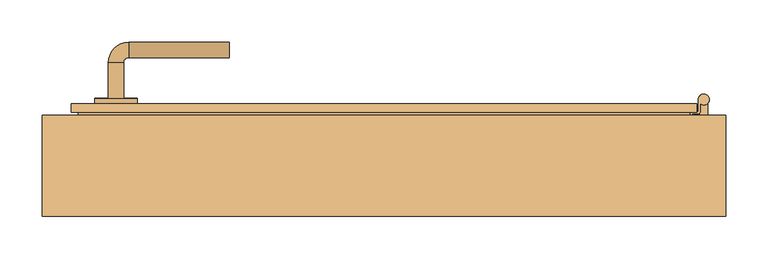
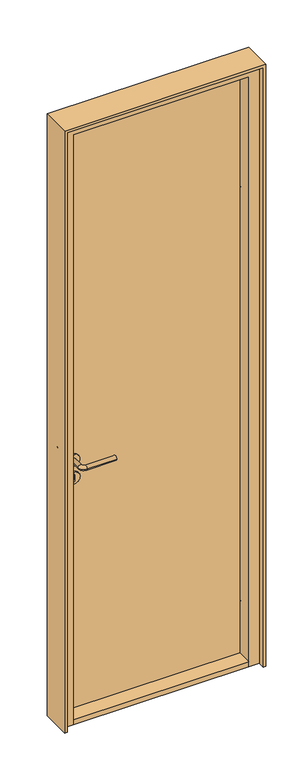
"""IFC4 building model written with IfcOpenShell, lengths in millimetres: door geometry, JW_Interior_Door_Steady_411_Single_1.0 : 790 x 1890 mm - M8 x M19 2 gray."""

from ifc_helpers import new_model, si_unit, point, frame, frame_2d, origin, place, context, project, spatial, polyline, circle_curve, ellipse_curve, trimmed, segment, composite_curve, outline, extrude, faceted_brep, source, transform, mapped, element, save
from ifc_brep_helpers import plane_surface, cylinder_surface, revolved_surface, advanced_brep


def door_3129260d(model_context):
    return source(origin(), model_context, "Body", "SolidModel", [
        advanced_brep(
        [(374.9018538, 73.3783893, 2305.5), (372.404139, 78.4990677, 2305.5), (372.404139, 64.9903905, 2305.5), (371.5949734, 64.1812249, 2305.5), (365.6129452, 64.1812249, 2305.5), (362.4001557, 60.9684354, 2305.5), (361.9114682, 51.6437223, 2305.5), (361.6497884, 46.6505746, 2305.5), (364.1463622, 46.5197347, 2305.5), (364.408042, 51.5128824, 2305.5), (364.9, 60.9, 2305.5), (365.6997148, 61.6997148, 2305.5), (371.7009982, 61.6997148, 2305.5), (374.9018538, 64.9005704, 2305.5), (374.9018538, 73.3783893, 2240.5), (374.9018538, 64.9005704, 2240.5), (371.7009982, 61.6997148, 2240.5), (365.6997148, 61.6997148, 2240.5), (364.9, 60.9, 2240.5), (364.408042, 51.5128824, 2240.5), (364.1463622, 46.5197347, 2240.5), (361.6497884, 46.6505746, 2240.5), (361.9114682, 51.6437223, 2240.5), (362.4001557, 60.9684354, 2240.5), (365.6129452, 64.1812249, 2240.5), (371.5949734, 64.1812249, 2240.5), (372.404139, 64.9903905, 2240.5), (372.404139, 78.4990677, 2240.5), (372.404139, 78.4990677, 2260.0), (374.9018538, 73.3783893, 2260.0), (374.9018538, 73.3783893, 2286.0), (372.404139, 78.4990677, 2286.0), (374.9018538, 64.9005704, 2260.0), (374.9018538, 64.9005704, 2286.0), (371.7009982, 61.6997148, 2260.0), (371.7009982, 61.6997148, 2286.0), (368.9, 61.6997148, 2260.0), (368.9, 61.6997148, 2286.0), (363.6230027, 36.5334394, 2295.5), (363.6230027, 36.5334394, 2250.5), (361.1264288, 36.6642792, 2295.5), (361.1264288, 36.6642792, 2250.5), (371.5949734, 64.1812249, 2286.0), (368.9, 64.1812249, 2286.0), (368.9, 64.1812249, 2260.0), (371.5949734, 64.1812249, 2260.0), (372.404139, 64.9903905, 2260.0), (372.404139, 64.9903905, 2286.0)],
        [
            (0, 1, circle_curve(frame((378.902064, 78.4990677, 2305.5), z_axis=(0.0, 0.0, 1.0), x_axis=(0.0, -1.0, 0.0)), 6.4979249)),
            (1, 2),
            (2, 3, circle_curve(frame((371.5949734, 64.9903905, 2305.5), z_axis=(0.0, 0.0, -1.0), x_axis=(0.0, -1.0, 0.0)), 0.8091657)),
            (3, 4),
            (4, 5, circle_curve(frame((365.6129452, 60.9684354, 2305.5), z_axis=(0.0, 0.0, 1.0), x_axis=(0.0, -1.0, 0.0)), 3.2127895)),
            (5, 6),
            (6, 7),
            (7, 8),
            (8, 9),
            (9, 10),
            (10, 11, circle_curve(frame((365.6997148, 60.9, 2305.5), z_axis=(0.0, 0.0, -1.0), x_axis=(0.0, -1.0, 0.0)), 0.7997148)),
            (11, 12),
            (12, 13, circle_curve(frame((371.7009982, 64.9005704, 2305.5), z_axis=(0.0, 0.0, 1.0), x_axis=(0.0, -1.0, 0.0)), 3.2008556)),
            (13, 0),
            (14, 15),
            (15, 16, circle_curve(frame((371.7009982, 64.9005704, 2240.5), z_axis=(0.0, 0.0, -1.0), x_axis=(0.0, -1.0, 0.0)), 3.2008556)),
            (16, 17),
            (17, 18, circle_curve(frame((365.6997148, 60.9, 2240.5), z_axis=(0.0, 0.0, 1.0), x_axis=(0.0, -1.0, 0.0)), 0.7997148)),
            (18, 19),
            (19, 20),
            (20, 21),
            (21, 22),
            (22, 23),
            (23, 24, circle_curve(frame((365.6129452, 60.9684354, 2240.5), z_axis=(0.0, 0.0, -1.0), x_axis=(0.0, -1.0, 0.0)), 3.2127895)),
            (24, 25),
            (25, 26, circle_curve(frame((371.5949734, 64.9903905, 2240.5), z_axis=(0.0, 0.0, 1.0), x_axis=(0.0, -1.0, 0.0)), 0.8091657)),
            (26, 27),
            (27, 14, circle_curve(frame((378.902064, 78.4990677, 2240.5), z_axis=(0.0, 0.0, -1.0), x_axis=(0.0, -1.0, 0.0)), 6.4979249)),
            (27, 28),
            (28, 29, circle_curve(frame((378.902064, 78.4990677, 2260.0), z_axis=(0.0, 0.0, -1.0), x_axis=(0.0, -1.0, 0.0)), 6.4979249)),
            (29, 14),
            (0, 30),
            (30, 31, circle_curve(frame((378.902064, 78.4990677, 2286.0), z_axis=(0.0, 0.0, 1.0), x_axis=(0.0, -1.0, 0.0)), 6.4979249)),
            (31, 1),
            (29, 32),
            (32, 15),
            (13, 33),
            (33, 30),
            (32, 34, circle_curve(frame((371.7009982, 64.9005704, 2260.0), z_axis=(0.0, 0.0, -1.0), x_axis=(0.0, -1.0, 0.0)), 3.2008556)),
            (34, 16),
            (12, 35),
            (35, 33, circle_curve(frame((371.7009982, 64.9005704, 2286.0), z_axis=(0.0, 0.0, 1.0), x_axis=(0.0, -1.0, 0.0)), 3.2008556)),
            (11, 17),
            (34, 36),
            (36, 37),
            (37, 35),
            (10, 18),
            (8, 38, circle_curve(frame((364.1463622, 46.5197347, 2295.5), z_axis=(0.9986295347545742, -0.05233595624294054, 0.0), x_axis=(0.05233595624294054, 0.9986295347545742, 0.0)), 10.0)),
            (38, 39),
            (39, 20, circle_curve(frame((364.1463622, 46.5197347, 2250.5), z_axis=(0.9986295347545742, -0.05233595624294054, 0.0), x_axis=(0.05233595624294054, 0.9986295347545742, 0.0)), 10.0)),
            (38, 40),
            (40, 41),
            (41, 39),
            (21, 41, circle_curve(frame((361.6497884, 46.6505746, 2250.5), z_axis=(-0.9986295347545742, 0.05233595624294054, 0.0), x_axis=(0.05233595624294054, 0.9986295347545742, 0.0)), 10.0)),
            (40, 7, circle_curve(frame((361.6497884, 46.6505746, 2295.5), z_axis=(-0.9986295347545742, 0.05233595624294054, 0.0), x_axis=(0.05233595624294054, 0.9986295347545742, 0.0)), 10.0)),
            (5, 23),
            (4, 24),
            (3, 42),
            (42, 43),
            (43, 44),
            (44, 45),
            (45, 25),
            (45, 46, circle_curve(frame((371.5949734, 64.9903905, 2260.0), z_axis=(0.0, 0.0, 1.0), x_axis=(0.0, -1.0, 0.0)), 0.8091657)),
            (46, 26),
            (2, 47),
            (47, 42, circle_curve(frame((371.5949734, 64.9903905, 2286.0), z_axis=(0.0, 0.0, -1.0), x_axis=(0.0, -1.0, 0.0)), 0.8091657)),
            (31, 47),
            (46, 28),
            (37, 43),
            (44, 36),
        ],
        [
            plane_surface(frame((374.9018538, 64.9005704, 2305.5), z_axis=(0.0, 0.0, 1.0), x_axis=(0.0, -1.0, 0.0))),
            plane_surface(frame((374.9018538, 64.9005704, 2240.5), z_axis=(0.0, 0.0, -1.0), x_axis=(0.0, 1.0, 0.0))),
            cylinder_surface(frame((378.902064, 78.4990677, 2240.5), z_axis=(0.0, 0.0, 1.0), x_axis=(0.0, -1.0, 0.0)), 6.4979249),
            plane_surface(frame((374.9018538, 73.3783893, 2305.5), z_axis=(1.0, 0.0, 0.0), x_axis=(0.0, 0.0, -1.0))),
            cylinder_surface(frame((371.7009982, 64.9005704, 2240.5), z_axis=(0.0, 0.0, 1.0), x_axis=(0.0, -1.0, 0.0)), 3.2008556),
            plane_surface(frame((371.7009982, 61.6997148, 2305.5), z_axis=(0.0, -1.0, 0.0), x_axis=(0.0, 0.0, -1.0))),
            revolved_surface(polyline([(365.6997148, 60.1002852, 2240.5), (365.6997148, 60.1002852, 2305.5)]), (365.6997148, 60.9, 2240.5), (0.0, 0.0, -1.0)),
            plane_surface(frame((364.9, 60.9, 2305.5), z_axis=(0.9986295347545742, -0.05233595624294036, 0.0), x_axis=(0.0, 0.0, -1.0))),
            plane_surface(frame((363.6230027, 36.5334394, 2305.5), z_axis=(-0.05233595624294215, -0.998629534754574, 0.0), x_axis=(0.0, 0.0, -1.0))),
            plane_surface(frame((361.1264288, 36.6642792, 2305.5), z_axis=(-0.9986295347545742, 0.05233595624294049, 0.0), x_axis=(0.0, 0.0, -1.0))),
            cylinder_surface(frame((365.6129452, 60.9684354, 2240.5), z_axis=(0.0, 0.0, 1.0), x_axis=(0.0, -1.0, 0.0)), 3.2127895),
            plane_surface(frame((365.6129452, 64.1812249, 2305.5), z_axis=(0.0, 1.0, 0.0), x_axis=(0.0, 0.0, -1.0))),
            revolved_surface(polyline([(371.5949734, 64.18122480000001, 2240.5), (371.5949734, 64.18122480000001, 2260.0)]), (371.5949734, 64.9903905, 2240.5), (0.0, 0.0, -1.0)),
            revolved_surface(polyline([(371.5949734, 64.18122480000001, 2286.0), (371.5949734, 64.18122480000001, 2305.5)]), (371.5949734, 64.9903905, 2240.5), (0.0, 0.0, -1.0)),
            plane_surface(frame((372.404139, 64.9903905, 2305.5), z_axis=(-1.0, 0.0, 0.0), x_axis=(0.0, 0.0, -1.0))),
            plane_surface(frame((386.4849846, 88.5564762, 2286.0), z_axis=(0.0, 0.0, -1.0), x_axis=(1.0, 0.0, 0.0))),
            plane_surface(frame((386.4849846, 88.5564762, 2260.0), z_axis=(0.0, 0.0, 1.0), x_axis=(-1.0, 0.0, 0.0))),
            plane_surface(frame((368.9, 58.5564762, 2286.0), z_axis=(1.0, 0.0, 0.0), x_axis=(0.0, 0.0, -1.0))),
            cylinder_surface(frame((369.1395099, 46.2580549, 2250.5), z_axis=(0.9986295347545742, -0.05233595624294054, 0.0), x_axis=(0.05233595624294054, 0.9986295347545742, 0.0)), 10.0),
            cylinder_surface(frame((369.1395099, 46.2580549, 2295.5), z_axis=(0.9986295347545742, -0.05233595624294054, 0.0), x_axis=(0.05233595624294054, 0.9986295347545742, 0.0)), 10.0),
        ],
        [
            (0, [[1, 2, 3, 4, 5, 6, 7, 8, 9, 10, 11, 12, 13, 14]]),
            (1, [[15, 16, 17, 18, 19, 20, 21, 22, 23, 24, 25, 26, 27, 28]]),
            (2, [[29, 30, 31, -28]]),
            (2, [[32, 33, 34, -1]]),
            (3, [[-31, 35, 36, -15]]),
            (3, [[37, 38, -32, -14]]),
            (4, [[-36, 39, 40, -16]]),
            (4, [[41, 42, -37, -13]]),
            (5, [[43, -17, -40, 44, 45, 46, -41, -12]]),
            (6, [[47, -18, -43, -11]]),
            (7, [[-10, -9, 48, 49, 50, -20, -19, -47]]),
            (8, [[51, 52, 53, -49]]),
            (9, [[-23, -22, 54, -52, 55, -7, -6, 56]]),
            (10, [[57, -24, -56, -5]]),
            (11, [[58, 59, 60, 61, 62, -25, -57, -4]]),
            (12, [[-62, 63, 64, -26]]),
            (13, [[65, 66, -58, -3]]),
            (14, [[-34, 67, -65, -2]]),
            (14, [[-64, 68, -29, -27]]),
            (15, [[-59, -66, -67, -33, -38, -42, -46, 69]]),
            (16, [[-44, -39, -35, -30, -68, -63, -61, 70]]),
            (17, [[-45, -70, -60, -69]]),
            (18, [[-50, -53, -54, -21]]),
            (19, [[-55, -51, -48, -8]]),
        ],
    ),
        extrude(outline(composite_curve([segment(trimmed(circle_curve(frame_2d((378.9, 78.5)), 3.75), [point((375.15, 78.5))], [point((382.65, 78.5))], False, "CARTESIAN"), True, "CONTINUOUS"), segment(trimmed(circle_curve(frame_2d((378.9, 78.5)), 3.75), [point((382.65, 78.5))], [point((375.15, 78.5))], False, "CARTESIAN"), True, "CONTINUOUS")], self_intersect=False)), frame((0.0, 0.0, 2240.5), z_axis=(0.0, 0.0, 1.0), x_axis=(1.0, 0.0, 0.0)), (0.0, 0.0, 1.0), 65.0),
        extrude(outline(composite_curve([segment(polyline([(383.9, 74.3466881), (383.9, 60.0), (373.9, 60.0), (373.9, 74.3466881)]), True, "CONTINUOUS"), segment(trimmed(circle_curve(frame_2d((378.9, 78.5)), 6.5), [point((373.9, 74.3466881))], [point((383.9, 74.3466881))], False, "CARTESIAN"), True, "CONTINUOUS")], self_intersect=False)), frame((0.0, 0.0, 2263.0), z_axis=(0.0, 0.0, 1.0), x_axis=(1.0, 0.0, 0.0)), (0.0, 0.0, 1.0), 20.0),
        advanced_brep(
        [(374.9018538, 73.3783893, 2055.5), (372.404139, 78.4990677, 2055.5), (372.404139, 64.9903905, 2055.5), (371.5949734, 64.1812249, 2055.5), (365.6129452, 64.1812249, 2055.5), (362.4001557, 60.9684354, 2055.5), (361.9114682, 51.6437223, 2055.5), (361.6497884, 46.6505746, 2055.5), (364.1463622, 46.5197347, 2055.5), (364.408042, 51.5128824, 2055.5), (364.9, 60.9, 2055.5), (365.6997148, 61.6997148, 2055.5), (371.7009982, 61.6997148, 2055.5), (374.9018538, 64.9005704, 2055.5), (374.9018538, 73.3783893, 1990.5), (374.9018538, 64.9005704, 1990.5), (371.7009982, 61.6997148, 1990.5), (365.6997148, 61.6997148, 1990.5), (364.9, 60.9, 1990.5), (364.408042, 51.5128824, 1990.5), (364.1463622, 46.5197347, 1990.5), (361.6497884, 46.6505746, 1990.5), (361.9114682, 51.6437223, 1990.5), (362.4001557, 60.9684354, 1990.5), (365.6129452, 64.1812249, 1990.5), (371.5949734, 64.1812249, 1990.5), (372.404139, 64.9903905, 1990.5), (372.404139, 78.4990677, 1990.5), (372.404139, 78.4990677, 2010.0), (374.9018538, 73.3783893, 2010.0), (374.9018538, 73.3783893, 2036.0), (372.404139, 78.4990677, 2036.0), (374.9018538, 64.9005704, 2010.0), (374.9018538, 64.9005704, 2036.0), (371.7009982, 61.6997148, 2010.0), (371.7009982, 61.6997148, 2036.0), (368.9, 61.6997148, 2010.0), (368.9, 61.6997148, 2036.0), (363.6230027, 36.5334394, 2045.5), (363.6230027, 36.5334394, 2000.5), (361.1264288, 36.6642792, 2045.5), (361.1264288, 36.6642792, 2000.5), (371.5949734, 64.1812249, 2036.0), (368.9, 64.1812249, 2036.0), (368.9, 64.1812249, 2010.0), (371.5949734, 64.1812249, 2010.0), (372.404139, 64.9903905, 2010.0), (372.404139, 64.9903905, 2036.0)],
        [
            (0, 1, circle_curve(frame((378.902064, 78.4990677, 2055.5), z_axis=(0.0, 0.0, 1.0), x_axis=(0.0, -1.0, 0.0)), 6.4979249)),
            (1, 2),
            (2, 3, circle_curve(frame((371.5949734, 64.9903905, 2055.5), z_axis=(0.0, 0.0, -1.0), x_axis=(0.0, -1.0, 0.0)), 0.8091657)),
            (3, 4),
            (4, 5, circle_curve(frame((365.6129452, 60.9684354, 2055.5), z_axis=(0.0, 0.0, 1.0), x_axis=(0.0, -1.0, 0.0)), 3.2127895)),
            (5, 6),
            (6, 7),
            (7, 8),
            (8, 9),
            (9, 10),
            (10, 11, circle_curve(frame((365.6997148, 60.9, 2055.5), z_axis=(0.0, 0.0, -1.0), x_axis=(0.0, -1.0, 0.0)), 0.7997148)),
            (11, 12),
            (12, 13, circle_curve(frame((371.7009982, 64.9005704, 2055.5), z_axis=(0.0, 0.0, 1.0), x_axis=(0.0, -1.0, 0.0)), 3.2008556)),
            (13, 0),
            (14, 15),
            (15, 16, circle_curve(frame((371.7009982, 64.9005704, 1990.5), z_axis=(0.0, 0.0, -1.0), x_axis=(0.0, -1.0, 0.0)), 3.2008556)),
            (16, 17),
            (17, 18, circle_curve(frame((365.6997148, 60.9, 1990.5), z_axis=(0.0, 0.0, 1.0), x_axis=(0.0, -1.0, 0.0)), 0.7997148)),
            (18, 19),
            (19, 20),
            (20, 21),
            (21, 22),
            (22, 23),
            (23, 24, circle_curve(frame((365.6129452, 60.9684354, 1990.5), z_axis=(0.0, 0.0, -1.0), x_axis=(0.0, -1.0, 0.0)), 3.2127895)),
            (24, 25),
            (25, 26, circle_curve(frame((371.5949734, 64.9903905, 1990.5), z_axis=(0.0, 0.0, 1.0), x_axis=(0.0, -1.0, 0.0)), 0.8091657)),
            (26, 27),
            (27, 14, circle_curve(frame((378.902064, 78.4990677, 1990.5), z_axis=(0.0, 0.0, -1.0), x_axis=(0.0, -1.0, 0.0)), 6.4979249)),
            (27, 28),
            (28, 29, circle_curve(frame((378.902064, 78.4990677, 2010.0), z_axis=(0.0, 0.0, -1.0), x_axis=(0.0, -1.0, 0.0)), 6.4979249)),
            (29, 14),
            (0, 30),
            (30, 31, circle_curve(frame((378.902064, 78.4990677, 2036.0), z_axis=(0.0, 0.0, 1.0), x_axis=(0.0, -1.0, 0.0)), 6.4979249)),
            (31, 1),
            (29, 32),
            (32, 15),
            (13, 33),
            (33, 30),
            (32, 34, circle_curve(frame((371.7009982, 64.9005704, 2010.0), z_axis=(0.0, 0.0, -1.0), x_axis=(0.0, -1.0, 0.0)), 3.2008556)),
            (34, 16),
            (12, 35),
            (35, 33, circle_curve(frame((371.7009982, 64.9005704, 2036.0), z_axis=(0.0, 0.0, 1.0), x_axis=(0.0, -1.0, 0.0)), 3.2008556)),
            (11, 17),
            (34, 36),
            (36, 37),
            (37, 35),
            (10, 18),
            (8, 38, circle_curve(frame((364.1463622, 46.5197347, 2045.5), z_axis=(0.9986295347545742, -0.05233595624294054, 0.0), x_axis=(0.05233595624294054, 0.9986295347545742, 0.0)), 10.0)),
            (38, 39),
            (39, 20, circle_curve(frame((364.1463622, 46.5197347, 2000.5), z_axis=(0.9986295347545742, -0.05233595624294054, 0.0), x_axis=(0.05233595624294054, 0.9986295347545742, 0.0)), 10.0)),
            (38, 40),
            (40, 41),
            (41, 39),
            (21, 41, circle_curve(frame((361.6497884, 46.6505746, 2000.5), z_axis=(-0.9986295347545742, 0.05233595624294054, 0.0), x_axis=(0.05233595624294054, 0.9986295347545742, 0.0)), 10.0)),
            (40, 7, circle_curve(frame((361.6497884, 46.6505746, 2045.5), z_axis=(-0.9986295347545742, 0.05233595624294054, 0.0), x_axis=(0.05233595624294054, 0.9986295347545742, 0.0)), 10.0)),
            (5, 23),
            (4, 24),
            (3, 42),
            (42, 43),
            (43, 44),
            (44, 45),
            (45, 25),
            (45, 46, circle_curve(frame((371.5949734, 64.9903905, 2010.0), z_axis=(0.0, 0.0, 1.0), x_axis=(0.0, -1.0, 0.0)), 0.8091657)),
            (46, 26),
            (2, 47),
            (47, 42, circle_curve(frame((371.5949734, 64.9903905, 2036.0), z_axis=(0.0, 0.0, -1.0), x_axis=(0.0, -1.0, 0.0)), 0.8091657)),
            (31, 47),
            (46, 28),
            (37, 43),
            (44, 36),
        ],
        [
            plane_surface(frame((374.9018538, 64.9005704, 2055.5), z_axis=(0.0, 0.0, 1.0), x_axis=(0.0, -1.0, 0.0))),
            plane_surface(frame((374.9018538, 64.9005704, 1990.5), z_axis=(0.0, 0.0, -1.0), x_axis=(0.0, 1.0, 0.0))),
            cylinder_surface(frame((378.902064, 78.4990677, 1990.5), z_axis=(0.0, 0.0, 1.0), x_axis=(0.0, -1.0, 0.0)), 6.4979249),
            plane_surface(frame((374.9018538, 73.3783893, 2055.5), z_axis=(1.0, 0.0, 0.0), x_axis=(0.0, 0.0, -1.0))),
            cylinder_surface(frame((371.7009982, 64.9005704, 1990.5), z_axis=(0.0, 0.0, 1.0), x_axis=(0.0, -1.0, 0.0)), 3.2008556),
            plane_surface(frame((371.7009982, 61.6997148, 2055.5), z_axis=(0.0, -1.0, 0.0), x_axis=(0.0, 0.0, -1.0))),
            revolved_surface(polyline([(365.6997148, 60.1002852, 1990.5), (365.6997148, 60.1002852, 2055.5)]), (365.6997148, 60.9, 1990.5), (0.0, 0.0, -1.0)),
            plane_surface(frame((364.9, 60.9, 2055.5), z_axis=(0.9986295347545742, -0.05233595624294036, 0.0), x_axis=(0.0, 0.0, -1.0))),
            plane_surface(frame((363.6230027, 36.5334394, 2055.5), z_axis=(-0.05233595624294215, -0.998629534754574, 0.0), x_axis=(0.0, 0.0, -1.0))),
            plane_surface(frame((361.1264288, 36.6642792, 2055.5), z_axis=(-0.9986295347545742, 0.05233595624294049, 0.0), x_axis=(0.0, 0.0, -1.0))),
            cylinder_surface(frame((365.6129452, 60.9684354, 1990.5), z_axis=(0.0, 0.0, 1.0), x_axis=(0.0, -1.0, 0.0)), 3.2127895),
            plane_surface(frame((365.6129452, 64.1812249, 2055.5), z_axis=(0.0, 1.0, 0.0), x_axis=(0.0, 0.0, -1.0))),
            revolved_surface(polyline([(371.5949734, 64.18122480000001, 1990.5), (371.5949734, 64.18122480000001, 2010.0)]), (371.5949734, 64.9903905, 1990.5), (0.0, 0.0, -1.0)),
            revolved_surface(polyline([(371.5949734, 64.18122480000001, 2036.0), (371.5949734, 64.18122480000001, 2055.5)]), (371.5949734, 64.9903905, 1990.5), (0.0, 0.0, -1.0)),
            plane_surface(frame((372.404139, 64.9903905, 2055.5), z_axis=(-1.0, 0.0, 0.0), x_axis=(0.0, 0.0, -1.0))),
            plane_surface(frame((386.4849846, 88.5564762, 2036.0), z_axis=(0.0, 0.0, -1.0), x_axis=(1.0, 0.0, 0.0))),
            plane_surface(frame((386.4849846, 88.5564762, 2010.0), z_axis=(0.0, 0.0, 1.0), x_axis=(-1.0, 0.0, 0.0))),
            plane_surface(frame((368.9, 58.5564762, 2036.0), z_axis=(1.0, 0.0, 0.0), x_axis=(0.0, 0.0, -1.0))),
            cylinder_surface(frame((369.1395099, 46.2580549, 2000.5), z_axis=(0.9986295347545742, -0.05233595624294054, 0.0), x_axis=(0.05233595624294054, 0.9986295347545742, 0.0)), 10.0),
            cylinder_surface(frame((369.1395099, 46.2580549, 2045.5), z_axis=(0.9986295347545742, -0.05233595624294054, 0.0), x_axis=(0.05233595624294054, 0.9986295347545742, 0.0)), 10.0),
        ],
        [
            (0, [[1, 2, 3, 4, 5, 6, 7, 8, 9, 10, 11, 12, 13, 14]]),
            (1, [[15, 16, 17, 18, 19, 20, 21, 22, 23, 24, 25, 26, 27, 28]]),
            (2, [[29, 30, 31, -28]]),
            (2, [[32, 33, 34, -1]]),
            (3, [[-31, 35, 36, -15]]),
            (3, [[37, 38, -32, -14]]),
            (4, [[-36, 39, 40, -16]]),
            (4, [[41, 42, -37, -13]]),
            (5, [[43, -17, -40, 44, 45, 46, -41, -12]]),
            (6, [[47, -18, -43, -11]]),
            (7, [[-10, -9, 48, 49, 50, -20, -19, -47]]),
            (8, [[51, 52, 53, -49]]),
            (9, [[-23, -22, 54, -52, 55, -7, -6, 56]]),
            (10, [[57, -24, -56, -5]]),
            (11, [[58, 59, 60, 61, 62, -25, -57, -4]]),
            (12, [[-62, 63, 64, -26]]),
            (13, [[65, 66, -58, -3]]),
            (14, [[-34, 67, -65, -2]]),
            (14, [[-64, 68, -29, -27]]),
            (15, [[-59, -66, -67, -33, -38, -42, -46, 69]]),
            (16, [[-44, -39, -35, -30, -68, -63, -61, 70]]),
            (17, [[-45, -70, -60, -69]]),
            (18, [[-50, -53, -54, -21]]),
            (19, [[-55, -51, -48, -8]]),
        ],
    ),
        extrude(outline(composite_curve([segment(trimmed(circle_curve(frame_2d((378.9, 78.5)), 3.75), [point((375.15, 78.5))], [point((382.65, 78.5))], False, "CARTESIAN"), True, "CONTINUOUS"), segment(trimmed(circle_curve(frame_2d((378.9, 78.5)), 3.75), [point((382.65, 78.5))], [point((375.15, 78.5))], False, "CARTESIAN"), True, "CONTINUOUS")], self_intersect=False)), frame((0.0, 0.0, 1990.5), z_axis=(0.0, 0.0, 1.0), x_axis=(1.0, 0.0, 0.0)), (0.0, 0.0, 1.0), 65.0),
        extrude(outline(composite_curve([segment(polyline([(383.9, 74.3466881), (383.9, 60.0), (373.9, 60.0), (373.9, 74.3466881)]), True, "CONTINUOUS"), segment(trimmed(circle_curve(frame_2d((378.9, 78.5)), 6.5), [point((373.9, 74.3466881))], [point((383.9, 74.3466881))], False, "CARTESIAN"), True, "CONTINUOUS")], self_intersect=False)), frame((0.0, 0.0, 2013.0), z_axis=(0.0, 0.0, 1.0), x_axis=(1.0, 0.0, 0.0)), (0.0, 0.0, 1.0), 20.0),
        advanced_brep(
        [(374.9018538, 73.3783893, 295.5), (372.404139, 78.4990677, 295.5), (372.404139, 64.9903905, 295.5), (371.5949734, 64.1812249, 295.5), (365.6129452, 64.1812249, 295.5), (362.4001557, 60.9684354, 295.5), (361.9114682, 51.6437223, 295.5), (361.6497884, 46.6505746, 295.5), (364.1463622, 46.5197347, 295.5), (364.408042, 51.5128824, 295.5), (364.9, 60.9, 295.5), (365.6997148, 61.6997148, 295.5), (371.7009982, 61.6997148, 295.5), (374.9018538, 64.9005704, 295.5), (374.9018538, 73.3783893, 230.5), (374.9018538, 64.9005704, 230.5), (371.7009982, 61.6997148, 230.5), (365.6997148, 61.6997148, 230.5), (364.9, 60.9, 230.5), (364.408042, 51.5128824, 230.5), (364.1463622, 46.5197347, 230.5), (361.6497884, 46.6505746, 230.5), (361.9114682, 51.6437223, 230.5), (362.4001557, 60.9684354, 230.5), (365.6129452, 64.1812249, 230.5), (371.5949734, 64.1812249, 230.5), (372.404139, 64.9903905, 230.5), (372.404139, 78.4990677, 230.5), (372.404139, 78.4990677, 250.0), (374.9018538, 73.3783893, 250.0), (374.9018538, 73.3783893, 276.0), (372.404139, 78.4990677, 276.0), (374.9018538, 64.9005704, 250.0), (374.9018538, 64.9005704, 276.0), (371.7009982, 61.6997148, 250.0), (371.7009982, 61.6997148, 276.0), (368.9, 61.6997148, 250.0), (368.9, 61.6997148, 276.0), (363.6230027, 36.5334394, 285.5), (363.6230027, 36.5334394, 240.5), (361.1264288, 36.6642792, 285.5), (361.1264288, 36.6642792, 240.5), (371.5949734, 64.1812249, 276.0), (368.9, 64.1812249, 276.0), (368.9, 64.1812249, 250.0), (371.5949734, 64.1812249, 250.0), (372.404139, 64.9903905, 250.0), (372.404139, 64.9903905, 276.0)],
        [
            (0, 1, circle_curve(frame((378.902064, 78.4990677, 295.5), z_axis=(0.0, 0.0, 1.0), x_axis=(0.0, -1.0, 0.0)), 6.4979249)),
            (1, 2),
            (2, 3, circle_curve(frame((371.5949734, 64.9903905, 295.5), z_axis=(0.0, 0.0, -1.0), x_axis=(0.0, -1.0, 0.0)), 0.8091657)),
            (3, 4),
            (4, 5, circle_curve(frame((365.6129452, 60.9684354, 295.5), z_axis=(0.0, 0.0, 1.0), x_axis=(0.0, -1.0, 0.0)), 3.2127895)),
            (5, 6),
            (6, 7),
            (7, 8),
            (8, 9),
            (9, 10),
            (10, 11, circle_curve(frame((365.6997148, 60.9, 295.5), z_axis=(0.0, 0.0, -1.0), x_axis=(0.0, -1.0, 0.0)), 0.7997148)),
            (11, 12),
            (12, 13, circle_curve(frame((371.7009982, 64.9005704, 295.5), z_axis=(0.0, 0.0, 1.0), x_axis=(0.0, -1.0, 0.0)), 3.2008556)),
            (13, 0),
            (14, 15),
            (15, 16, circle_curve(frame((371.7009982, 64.9005704, 230.5), z_axis=(0.0, 0.0, -1.0), x_axis=(0.0, -1.0, 0.0)), 3.2008556)),
            (16, 17),
            (17, 18, circle_curve(frame((365.6997148, 60.9, 230.5), z_axis=(0.0, 0.0, 1.0), x_axis=(0.0, -1.0, 0.0)), 0.7997148)),
            (18, 19),
            (19, 20),
            (20, 21),
            (21, 22),
            (22, 23),
            (23, 24, circle_curve(frame((365.6129452, 60.9684354, 230.5), z_axis=(0.0, 0.0, -1.0), x_axis=(0.0, -1.0, 0.0)), 3.2127895)),
            (24, 25),
            (25, 26, circle_curve(frame((371.5949734, 64.9903905, 230.5), z_axis=(0.0, 0.0, 1.0), x_axis=(0.0, -1.0, 0.0)), 0.8091657)),
            (26, 27),
            (27, 14, circle_curve(frame((378.902064, 78.4990677, 230.5), z_axis=(0.0, 0.0, -1.0), x_axis=(0.0, -1.0, 0.0)), 6.4979249)),
            (27, 28),
            (28, 29, circle_curve(frame((378.902064, 78.4990677, 250.0), z_axis=(0.0, 0.0, -1.0), x_axis=(0.0, -1.0, 0.0)), 6.4979249)),
            (29, 14),
            (0, 30),
            (30, 31, circle_curve(frame((378.902064, 78.4990677, 276.0), z_axis=(0.0, 0.0, 1.0), x_axis=(0.0, -1.0, 0.0)), 6.4979249)),
            (31, 1),
            (29, 32),
            (32, 15),
            (13, 33),
            (33, 30),
            (32, 34, circle_curve(frame((371.7009982, 64.9005704, 250.0), z_axis=(0.0, 0.0, -1.0), x_axis=(0.0, -1.0, 0.0)), 3.2008556)),
            (34, 16),
            (12, 35),
            (35, 33, circle_curve(frame((371.7009982, 64.9005704, 276.0), z_axis=(0.0, 0.0, 1.0), x_axis=(0.0, -1.0, 0.0)), 3.2008556)),
            (11, 17),
            (34, 36),
            (36, 37),
            (37, 35),
            (10, 18),
            (8, 38, circle_curve(frame((364.1463622, 46.5197347, 285.5), z_axis=(0.9986295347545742, -0.05233595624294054, 0.0), x_axis=(0.05233595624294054, 0.9986295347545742, 0.0)), 10.0)),
            (38, 39),
            (39, 20, circle_curve(frame((364.1463622, 46.5197347, 240.5), z_axis=(0.9986295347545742, -0.05233595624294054, 0.0), x_axis=(0.05233595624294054, 0.9986295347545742, 0.0)), 10.0)),
            (38, 40),
            (40, 41),
            (41, 39),
            (21, 41, circle_curve(frame((361.6497884, 46.6505746, 240.5), z_axis=(-0.9986295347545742, 0.05233595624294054, 0.0), x_axis=(0.05233595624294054, 0.9986295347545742, 0.0)), 10.0)),
            (40, 7, circle_curve(frame((361.6497884, 46.6505746, 285.5), z_axis=(-0.9986295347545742, 0.05233595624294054, 0.0), x_axis=(0.05233595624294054, 0.9986295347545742, 0.0)), 10.0)),
            (5, 23),
            (4, 24),
            (3, 42),
            (42, 43),
            (43, 44),
            (44, 45),
            (45, 25),
            (45, 46, circle_curve(frame((371.5949734, 64.9903905, 250.0), z_axis=(0.0, 0.0, 1.0), x_axis=(0.0, -1.0, 0.0)), 0.8091657)),
            (46, 26),
            (2, 47),
            (47, 42, circle_curve(frame((371.5949734, 64.9903905, 276.0), z_axis=(0.0, 0.0, -1.0), x_axis=(0.0, -1.0, 0.0)), 0.8091657)),
            (31, 47),
            (46, 28),
            (37, 43),
            (44, 36),
        ],
        [
            plane_surface(frame((374.9018538, 64.9005704, 295.5), z_axis=(0.0, 0.0, 1.0), x_axis=(0.0, -1.0, 0.0))),
            plane_surface(frame((374.9018538, 64.9005704, 230.5), z_axis=(0.0, 0.0, -1.0), x_axis=(0.0, 1.0, 0.0))),
            cylinder_surface(frame((378.902064, 78.4990677, 230.5), z_axis=(0.0, 0.0, 1.0), x_axis=(0.0, -1.0, 0.0)), 6.4979249),
            plane_surface(frame((374.9018538, 73.3783893, 295.5), z_axis=(1.0, 0.0, 0.0), x_axis=(0.0, 0.0, -1.0))),
            cylinder_surface(frame((371.7009982, 64.9005704, 230.5), z_axis=(0.0, 0.0, 1.0), x_axis=(0.0, -1.0, 0.0)), 3.2008556),
            plane_surface(frame((371.7009982, 61.6997148, 295.5), z_axis=(0.0, -1.0, 0.0), x_axis=(0.0, 0.0, -1.0))),
            revolved_surface(polyline([(365.6997148, 60.1002852, 230.5), (365.6997148, 60.1002852, 295.5)]), (365.6997148, 60.9, 230.5), (0.0, 0.0, -1.0)),
            plane_surface(frame((364.9, 60.9, 295.5), z_axis=(0.9986295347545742, -0.05233595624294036, 0.0), x_axis=(0.0, 0.0, -1.0))),
            plane_surface(frame((363.6230027, 36.5334394, 295.5), z_axis=(-0.05233595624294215, -0.998629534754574, 0.0), x_axis=(0.0, 0.0, -1.0))),
            plane_surface(frame((361.1264288, 36.6642792, 295.5), z_axis=(-0.9986295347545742, 0.05233595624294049, 0.0), x_axis=(0.0, 0.0, -1.0))),
            cylinder_surface(frame((365.6129452, 60.9684354, 230.5), z_axis=(0.0, 0.0, 1.0), x_axis=(0.0, -1.0, 0.0)), 3.2127895),
            plane_surface(frame((365.6129452, 64.1812249, 295.5), z_axis=(0.0, 1.0, 0.0), x_axis=(0.0, 0.0, -1.0))),
            revolved_surface(polyline([(371.5949734, 64.18122480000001, 230.5), (371.5949734, 64.18122480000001, 250.0)]), (371.5949734, 64.9903905, 230.5), (0.0, 0.0, -1.0)),
            revolved_surface(polyline([(371.5949734, 64.18122480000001, 276.0), (371.5949734, 64.18122480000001, 295.5)]), (371.5949734, 64.9903905, 230.5), (0.0, 0.0, -1.0)),
            plane_surface(frame((372.404139, 64.9903905, 295.5), z_axis=(-1.0, 0.0, 0.0), x_axis=(0.0, 0.0, -1.0))),
            plane_surface(frame((386.4849846, 88.5564762, 276.0), z_axis=(0.0, 0.0, -1.0), x_axis=(1.0, 0.0, 0.0))),
            plane_surface(frame((386.4849846, 88.5564762, 250.0), z_axis=(0.0, 0.0, 1.0), x_axis=(-1.0, 0.0, 0.0))),
            plane_surface(frame((368.9, 58.5564762, 276.0), z_axis=(1.0, 0.0, 0.0), x_axis=(0.0, 0.0, -1.0))),
            cylinder_surface(frame((369.1395099, 46.2580549, 240.5), z_axis=(0.9986295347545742, -0.05233595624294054, 0.0), x_axis=(0.05233595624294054, 0.9986295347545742, 0.0)), 10.0),
            cylinder_surface(frame((369.1395099, 46.2580549, 285.5), z_axis=(0.9986295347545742, -0.05233595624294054, 0.0), x_axis=(0.05233595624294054, 0.9986295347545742, 0.0)), 10.0),
        ],
        [
            (0, [[1, 2, 3, 4, 5, 6, 7, 8, 9, 10, 11, 12, 13, 14]]),
            (1, [[15, 16, 17, 18, 19, 20, 21, 22, 23, 24, 25, 26, 27, 28]]),
            (2, [[29, 30, 31, -28]]),
            (2, [[32, 33, 34, -1]]),
            (3, [[-31, 35, 36, -15]]),
            (3, [[37, 38, -32, -14]]),
            (4, [[-36, 39, 40, -16]]),
            (4, [[41, 42, -37, -13]]),
            (5, [[43, -17, -40, 44, 45, 46, -41, -12]]),
            (6, [[47, -18, -43, -11]]),
            (7, [[-10, -9, 48, 49, 50, -20, -19, -47]]),
            (8, [[51, 52, 53, -49]]),
            (9, [[-23, -22, 54, -52, 55, -7, -6, 56]]),
            (10, [[57, -24, -56, -5]]),
            (11, [[58, 59, 60, 61, 62, -25, -57, -4]]),
            (12, [[-62, 63, 64, -26]]),
            (13, [[65, 66, -58, -3]]),
            (14, [[-34, 67, -65, -2]]),
            (14, [[-64, 68, -29, -27]]),
            (15, [[-59, -66, -67, -33, -38, -42, -46, 69]]),
            (16, [[-44, -39, -35, -30, -68, -63, -61, 70]]),
            (17, [[-45, -70, -60, -69]]),
            (18, [[-50, -53, -54, -21]]),
            (19, [[-55, -51, -48, -8]]),
        ],
    ),
        extrude(outline(composite_curve([segment(trimmed(circle_curve(frame_2d((378.9, 78.5)), 3.75), [point((375.15, 78.5))], [point((382.65, 78.5))], False, "CARTESIAN"), True, "CONTINUOUS"), segment(trimmed(circle_curve(frame_2d((378.9, 78.5)), 3.75), [point((382.65, 78.5))], [point((375.15, 78.5))], False, "CARTESIAN"), True, "CONTINUOUS")], self_intersect=False)), frame((0.0, 0.0, 230.5), z_axis=(0.0, 0.0, 1.0), x_axis=(1.0, 0.0, 0.0)), (0.0, 0.0, 1.0), 65.0),
        extrude(outline(composite_curve([segment(polyline([(383.9, 74.3466881), (383.9, 60.0), (373.9, 60.0), (373.9, 74.3466881)]), True, "CONTINUOUS"), segment(trimmed(circle_curve(frame_2d((378.9, 78.5)), 6.5), [point((373.9, 74.3466881))], [point((383.9, 74.3466881))], False, "CARTESIAN"), True, "CONTINUOUS")], self_intersect=False)), frame((0.0, 0.0, 253.0), z_axis=(0.0, 0.0, 1.0), x_axis=(1.0, 0.0, 0.0)), (0.0, 0.0, 1.0), 20.0),
        faceted_brep([(-395.0, -32.0, 0.0), (-395.0, 60.0, 0.0), (-365.0, 60.0, 0.0), (-365.0, 30.0, 0.0), (-353.0, 30.0, 0.0), (-353.0, -32.0, 0.0), (-395.0, -32.0, 2550.0), (-395.0, 60.0, 2550.0), (395.0, 60.0, 2550.0), (395.0, 60.0, 0.0), (365.0, 60.0, 0.0), (365.0, 60.0, 2520.0), (-365.0, 60.0, 2520.0), (-365.0, 30.0, 2520.0), (365.0, 30.0, 2520.0), (365.0, 30.0, 0.0), (353.0, 30.0, 0.0), (353.0, 30.0, 2508.0), (-353.0, 30.0, 2508.0), (-353.0, -32.0, 2508.0), (353.0, -32.0, 2508.0), (353.0, -32.0, 0.0), (395.0, -32.0, 0.0), (395.0, -32.0, 2550.0)], [[[0, 1, 2, 3, 4, 5]], [[1, 0, 6, 7]], [[2, 1, 7, 8, 9, 10, 11, 12]], [[3, 2, 12, 13]], [[4, 3, 13, 14, 15, 16, 17, 18]], [[5, 4, 18, 19]], [[0, 5, 19, 20, 21, 22, 23, 6]], [[8, 23, 22, 9]], [[22, 21, 16, 15, 10, 9]], [[14, 11, 10, 15]], [[20, 17, 16, 21]], [[7, 6, 23, 8]], [[13, 12, 11, 14]], [[19, 18, 17, 20]]]),
        faceted_brep([(365.0, 60.0, 0.0), (365.0, 60.0, 15.0), (365.0, 30.0, 15.0), (365.0, 30.0, 0.0), (-365.0, 30.0, 15.0), (-365.0, 60.0, 15.0), (-365.0, 60.0, 0.0), (-365.0, 30.0, 0.0), (353.0, 30.0, 0.0), (353.0, -32.0, 0.0), (-353.0, -32.0, 0.0), (-353.0, 30.0, 0.0), (-353.0, 30.0, 15.0), (353.0, 30.0, 15.0), (-353.0, 30.0, 22.0), (353.0, 30.0, 22.0), (-353.0, -32.0, 22.0), (353.0, -32.0, 22.0)], [[[0, 1, 2, 3]], [[4, 5, 6, 7]], [[6, 0, 3, 8, 9, 10, 11, 7]], [[1, 0, 6, 5]], [[2, 1, 5, 4, 12, 13]], [[13, 12, 14, 15]], [[15, 14, 16, 17]], [[10, 9, 17, 16]], [[11, 12, 4, 7]], [[12, 11, 10, 16, 14]], [[8, 13, 15, 17, 9]], [[13, 8, 3, 2]]]),
        extrude(outline(composite_curve([segment(trimmed(circle_curve(frame_2d((1001.0, -317.5)), 25.0), [point((1001.0, -292.5))], [point((1001.0, -342.5))], False, "CARTESIAN"), True, "CONTINUOUS"), segment(trimmed(circle_curve(frame_2d((1001.0, -317.5)), 25.0), [point((1001.0, -342.5))], [point((1001.0, -292.5))], False, "CARTESIAN"), True, "CONTINUOUS")], self_intersect=False), holes=[composite_curve([segment(trimmed(circle_curve(frame_2d((1012.243411, -317.5)), 4.0), [point((1012.243411, -321.5))], [point((1012.243411, -313.5))], True, "CARTESIAN"), True, "CONTINUOUS"), segment(polyline([(1012.243411, -313.5), (989.756589, -313.5)]), True, "CONTINUOUS"), segment(trimmed(circle_curve(frame_2d((989.756589, -317.5)), 4.0), [point((989.756589, -313.5))], [point((989.756589, -321.5))], True, "CARTESIAN"), True, "CONTINUOUS"), segment(polyline([(989.756589, -321.5), (1012.243411, -321.5)]), True, "CONTINUOUS")], self_intersect=False)]), frame((0.0, 26.5, 0.0), z_axis=(0.0, 1.0, 0.0), x_axis=(0.0, 0.0, 1.0)), (0.0, 0.0, 1.0), 7.0),
        extrude(outline(composite_curve([segment(trimmed(circle_curve(frame_2d((1001.0, -317.5)), 25.0), [point((1001.0, -292.5))], [point((1001.0, -342.5))], False, "CARTESIAN"), True, "CONTINUOUS"), segment(trimmed(circle_curve(frame_2d((1001.0, -317.5)), 25.0), [point((1001.0, -342.5))], [point((1001.0, -292.5))], False, "CARTESIAN"), True, "CONTINUOUS")], self_intersect=False), holes=[composite_curve([segment(polyline([(989.756589, -321.5), (1012.243411, -321.5)]), True, "CONTINUOUS"), segment(trimmed(circle_curve(frame_2d((1012.243411, -317.5)), 4.0), [point((1012.243411, -321.5))], [point((1012.243411, -313.5))], True, "CARTESIAN"), True, "CONTINUOUS"), segment(polyline([(1012.243411, -313.5), (989.756589, -313.5)]), True, "CONTINUOUS"), segment(trimmed(circle_curve(frame_2d((989.756589, -317.5)), 4.0), [point((989.756589, -313.5))], [point((989.756589, -321.5))], True, "CARTESIAN"), True, "CONTINUOUS")], self_intersect=False)]), frame((0.0, 73.5, 0.0), z_axis=(0.0, 1.0, 0.0), x_axis=(0.0, 0.0, 1.0)), (0.0, 0.0, 1.0), 7.0),
        advanced_brep(
        [(-342.5, 27.5, 1075.0), (-292.5, 27.5, 1075.0), (-308.5346073, 27.5, 1075.0), (-326.4653927, 27.5, 1075.0), (-342.5, 33.5, 1075.0), (-292.5, 33.5, 1075.0), (-326.4653927, -15.4627146, 1075.0), (-308.5346073, -15.4627146, 1075.0), (-302.5, -39.4281073, 1075.0), (-302.5, -21.4973219, 1075.0), (-183.5, -21.4973219, 1075.0), (-183.5, -39.4281073, 1075.0)],
        [
            (0, 1, circle_curve(frame((-317.5, 27.5, 1075.0), z_axis=(0.0, -1.0, 0.0), x_axis=(1.0, 0.0, 0.0)), 25.0)),
            (1, 0, circle_curve(frame((-317.5, 27.5, 1075.0), z_axis=(0.0, -1.0, 0.0), x_axis=(1.0, 0.0, 0.0)), 25.0)),
            (2, 3, circle_curve(frame((-317.5, 27.5, 1075.0), z_axis=(0.0, 1.0, 0.0), x_axis=(-1.0, 0.0, 0.0)), 8.9653927)),
            (3, 2, circle_curve(frame((-317.5, 27.5, 1075.0), z_axis=(0.0, 1.0, 0.0), x_axis=(-1.0, 0.0, 0.0)), 8.9653927)),
            (4, 5, circle_curve(frame((-317.5, 33.5, 1075.0), z_axis=(0.0, 1.0, 0.0), x_axis=(1.0, 0.0, 0.0)), 25.0)),
            (5, 4, circle_curve(frame((-317.5, 33.5, 1075.0), z_axis=(0.0, 1.0, 0.0), x_axis=(1.0, 0.0, 0.0)), 25.0)),
            (0, 4),
            (5, 1),
            (3, 6),
            (6, 7, circle_curve(frame((-317.5, -15.4627146, 1075.0), z_axis=(0.0, 1.0, 0.0), x_axis=(-1.0, 0.0, 0.0)), 8.9653927)),
            (7, 2),
            (7, 6, circle_curve(frame((-317.5, -15.4627146, 1075.0), z_axis=(0.0, 1.0, 0.0), x_axis=(-1.0, 0.0, 0.0)), 8.9653927)),
            (6, 8, circle_curve(frame((-302.5, -15.4627146, 1075.0), z_axis=(0.0, 0.0, 1.0), x_axis=(-1.0, 0.0, 0.0)), 23.9653927)),
            (8, 9, circle_curve(frame((-302.5, -30.4627146, 1075.0), z_axis=(-1.0, 0.0, 0.0), x_axis=(0.0, -1.0, 0.0)), 8.9653927)),
            (9, 7, circle_curve(frame((-302.5, -15.4627146, 1075.0), z_axis=(0.0, 0.0, -1.0), x_axis=(-1.0, 0.0, 0.0)), 6.0346073)),
            (9, 8, circle_curve(frame((-302.5, -30.4627146, 1075.0), z_axis=(-1.0, 0.0, 0.0), x_axis=(0.0, -1.0, 0.0)), 8.9653927)),
            (10, 11, circle_curve(frame((-183.5, -30.4627146, 1075.0), z_axis=(1.0, 0.0, 0.0), x_axis=(0.0, -1.0, 0.0)), 8.9653927)),
            (11, 10, circle_curve(frame((-183.5, -30.4627146, 1075.0), z_axis=(1.0, 0.0, 0.0), x_axis=(0.0, -1.0, 0.0)), 8.9653927)),
            (8, 11),
            (10, 9),
        ],
        [
            plane_surface(frame((-292.5, 27.5, 1075.0), z_axis=(0.0, -1.0, 0.0), x_axis=(0.0, 0.0, -1.0))),
            plane_surface(frame((-292.5, 33.5, 1075.0), z_axis=(0.0, 1.0, 0.0), x_axis=(0.0, 0.0, 1.0))),
            cylinder_surface(frame((-317.5, 27.5, 1075.0), z_axis=(0.0, 1.0, 0.0), x_axis=(1.0, 0.0, 0.0)), 25.0),
            cylinder_surface(frame((-317.5, 27.5, 1075.0), z_axis=(0.0, 1.0, 0.0), x_axis=(-1.0, 0.0, 0.0)), 8.9653927),
            revolved_surface(trimmed(ellipse_curve(frame((-317.5, -15.4627146, 1075.0), z_axis=(0.0, -1.0, 0.0), x_axis=(-1.0, 0.0, 0.0)), 8.9653927, 8.9653927), [point((-308.5346073, -15.4627146, 1075.0))], [point((-326.4653927, -15.4627146, 1075.0))], True, "CARTESIAN"), (-302.5, -15.4627146, 1075.0), (0.0, 0.0, -1.0)),
            revolved_surface(trimmed(ellipse_curve(frame((-317.5, -15.4627146, 1075.0), z_axis=(0.0, -1.0, 0.0), x_axis=(-1.0, 0.0, 0.0)), 8.9653927, 8.9653927), [point((-326.4653927, -15.4627146, 1075.0))], [point((-308.5346073, -15.4627146, 1075.0))], True, "CARTESIAN"), (-302.5, -15.4627146, 1075.0), (0.0, 0.0, -1.0)),
            plane_surface(frame((-183.5, -30.4627146, 1075.0), z_axis=(1.0, 0.0, 0.0), x_axis=(0.0, 0.0, 1.0))),
            cylinder_surface(frame((-302.5, -30.4627146, 1075.0), z_axis=(-1.0, 0.0, 0.0), x_axis=(0.0, -1.0, 0.0)), 8.9653927),
        ],
        [
            (0, [[1, 2], [3, 4]]),
            (1, [[5, 6]]),
            (2, [[7, -6, 8, -1]]),
            (2, [[-8, -5, -7, -2]]),
            (3, [[-4, 9, 10, 11]]),
            (3, [[12, -9, -3, -11]]),
            (4, [[13, 14, 15, -10]]),
            (5, [[-15, 16, -13, -12]]),
            (6, [[17, 18]]),
            (7, [[19, -17, 20, -14]]),
            (7, [[-20, -18, -19, -16]]),
        ],
    ),
        advanced_brep(
        [(-342.5, 79.5, 1075.0), (-292.5, 79.5, 1075.0), (-308.5346073, 79.5, 1075.0), (-326.4653927, 79.5, 1075.0), (-342.5, 73.5, 1075.0), (-292.5, 73.5, 1075.0), (-308.5346073, 122.4627146, 1075.0), (-326.4653927, 122.4627146, 1075.0), (-302.5, 128.4973219, 1075.0), (-302.5, 146.4281073, 1075.0), (-183.5, 128.4973219, 1075.0), (-183.5, 146.4281073, 1075.0)],
        [
            (0, 1, circle_curve(frame((-317.5, 79.5, 1075.0), z_axis=(0.0, 1.0, 0.0), x_axis=(1.0, 0.0, 0.0)), 25.0)),
            (1, 0, circle_curve(frame((-317.5, 79.5, 1075.0), z_axis=(0.0, 1.0, 0.0), x_axis=(1.0, 0.0, 0.0)), 25.0)),
            (2, 3, circle_curve(frame((-317.5, 79.5, 1075.0), z_axis=(0.0, -1.0, 0.0), x_axis=(-1.0, 0.0, 0.0)), 8.9653927)),
            (3, 2, circle_curve(frame((-317.5, 79.5, 1075.0), z_axis=(0.0, -1.0, 0.0), x_axis=(-1.0, 0.0, 0.0)), 8.9653927)),
            (4, 5, circle_curve(frame((-317.5, 73.5, 1075.0), z_axis=(0.0, -1.0, 0.0), x_axis=(1.0, 0.0, 0.0)), 25.0)),
            (5, 4, circle_curve(frame((-317.5, 73.5, 1075.0), z_axis=(0.0, -1.0, 0.0), x_axis=(1.0, 0.0, 0.0)), 25.0)),
            (1, 5),
            (4, 0),
            (2, 6),
            (6, 7, circle_curve(frame((-317.5, 122.4627146, 1075.0), z_axis=(0.0, -1.0, 0.0), x_axis=(-1.0, 0.0, 0.0)), 8.9653927)),
            (7, 3),
            (7, 6, circle_curve(frame((-317.5, 122.4627146, 1075.0), z_axis=(0.0, -1.0, 0.0), x_axis=(-1.0, 0.0, 0.0)), 8.9653927)),
            (6, 8, circle_curve(frame((-302.5, 122.4627146, 1075.0), z_axis=(0.0, 0.0, -1.0), x_axis=(-1.0, 0.0, 0.0)), 6.0346073)),
            (8, 9, circle_curve(frame((-302.5, 137.4627146, 1075.0), z_axis=(-1.0, 0.0, 0.0), x_axis=(0.0, 1.0, 0.0)), 8.9653927)),
            (9, 7, circle_curve(frame((-302.5, 122.4627146, 1075.0), z_axis=(0.0, 0.0, 1.0), x_axis=(-1.0, 0.0, 0.0)), 23.9653927)),
            (9, 8, circle_curve(frame((-302.5, 137.4627146, 1075.0), z_axis=(-1.0, 0.0, 0.0), x_axis=(0.0, 1.0, 0.0)), 8.9653927)),
            (10, 11, circle_curve(frame((-183.5, 137.4627146, 1075.0), z_axis=(1.0, 0.0, 0.0), x_axis=(0.0, 1.0, 0.0)), 8.9653927)),
            (11, 10, circle_curve(frame((-183.5, 137.4627146, 1075.0), z_axis=(1.0, 0.0, 0.0), x_axis=(0.0, 1.0, 0.0)), 8.9653927)),
            (8, 10),
            (11, 9),
        ],
        [
            plane_surface(frame((-292.5, 79.5, 1075.0), z_axis=(0.0, 1.0, 0.0), x_axis=(0.0, 0.0, -1.0))),
            plane_surface(frame((-292.5, 73.5, 1075.0), z_axis=(0.0, -1.0, 0.0), x_axis=(0.0, 0.0, 1.0))),
            cylinder_surface(frame((-317.5, 79.5, 1075.0), z_axis=(0.0, -1.0, 0.0), x_axis=(1.0, 0.0, 0.0)), 25.0),
            cylinder_surface(frame((-317.5, 79.5, 1075.0), z_axis=(0.0, -1.0, 0.0), x_axis=(-1.0, 0.0, 0.0)), 8.9653927),
            revolved_surface(trimmed(ellipse_curve(frame((-317.5, 122.4627146, 1075.0), z_axis=(0.0, -1.0, 0.0), x_axis=(-1.0, 0.0, 0.0)), 8.9653927, 8.9653927), [point((-308.5346073, 122.4627146, 1075.0))], [point((-326.4653927, 122.4627146, 1075.0))], True, "CARTESIAN"), (-302.5, 122.4627146, 1075.0), (0.0, 0.0, -1.0)),
            revolved_surface(trimmed(ellipse_curve(frame((-317.5, 122.4627146, 1075.0), z_axis=(0.0, -1.0, 0.0), x_axis=(-1.0, 0.0, 0.0)), 8.9653927, 8.9653927), [point((-326.4653927, 122.4627146, 1075.0))], [point((-308.5346073, 122.4627146, 1075.0))], True, "CARTESIAN"), (-302.5, 122.4627146, 1075.0), (0.0, 0.0, -1.0)),
            plane_surface(frame((-183.5, 137.4627146, 1075.0), z_axis=(1.0, 0.0, 0.0), x_axis=(0.0, 0.0, 1.0))),
            cylinder_surface(frame((-302.5, 137.4627146, 1075.0), z_axis=(-1.0, 0.0, 0.0), x_axis=(0.0, 1.0, 0.0)), 8.9653927),
        ],
        [
            (0, [[1, 2], [3, 4]]),
            (1, [[5, 6]]),
            (2, [[-2, 7, -5, 8]]),
            (2, [[-1, -8, -6, -7]]),
            (3, [[9, 10, 11, -3]]),
            (3, [[-9, -4, -11, 12]]),
            (4, [[-10, 13, 14, 15]]),
            (5, [[-12, -15, 16, -13]]),
            (6, [[17, 18]]),
            (7, [[-14, 19, -18, 20]]),
            (7, [[-16, -20, -17, -19]]),
        ],
    ),
        faceted_brep([(360.4021956, 33.5, 18.0), (360.4021956, 33.5, 2518.0), (-360.4021956, 33.5, 2518.0), (-360.4021956, 33.5, 18.0), (362.5, 63.5, 18.0), (362.5, 63.5, 2518.0), (-362.5, 63.5, 2518.0), (-362.5, 63.5, 18.0), (-370.5, 73.5, 2524.0), (370.5, 73.5, 2524.0), (370.5, 73.5, 12.0), (-370.5, 73.5, 12.0), (370.5, 63.5, 2524.0), (370.5, 63.5, 12.0), (-370.5, 63.5, 12.0), (-370.5, 63.5, 2524.0)], [[[0, 1, 2, 3]], [[1, 0, 4, 5]], [[3, 2, 6, 7]], [[7, 4, 0, 3]], [[8, 9, 10, 11]], [[10, 9, 12, 13]], [[11, 10, 13, 14]], [[8, 11, 14, 15]], [[14, 13, 12, 15], [6, 5, 4, 7]], [[9, 8, 15, 12]], [[5, 6, 2, 1]]]),
        extrude(outline(polyline([(0.0, 395.0), (0.0, 405.0), (2560.0, 405.0), (2560.0, -405.0), (0.0, -405.0), (0.0, -395.0), (2550.0, -395.0), (2550.0, 395.0), (0.0, 395.0)])), frame((0.0, -60.0, 0.0), z_axis=(0.0, 1.0, 0.0), x_axis=(0.0, 0.0, 1.0)), (0.0, 0.0, 1.0), 120.0),
    ])


if __name__ == "__main__":
    model = new_model("IFC4")
    model_context = context("Model", 3, world=origin())
    ifc_project = project(units=[si_unit("LENGTHUNIT", "METRE", prefix="MILLI")], contexts=[model_context])
    site = spatial("IfcSite", under=ifc_project)
    building = spatial("IfcBuilding", under=site)
    placement = place(None, origin())
    door_shape = door_3129260d(model_context)
    element("IfcDoor", 1, ObjectType="JW_Interior_Door_Steady_411_Single_1.0 : 790 x 1890 mm - M8 x M19 2 gray", at=placement, inside=building, context=model_context, shape_type="MappedRepresentation", body=[
        mapped(door_shape, transform((0.0, 0.0, 0.0), x_axis=(1.0, 0.0, 0.0), y_axis=(0.0, 1.0, 0.0), z_axis=(0.0, 0.0, 1.0))),
    ])
    save(model, "model.ifc")
